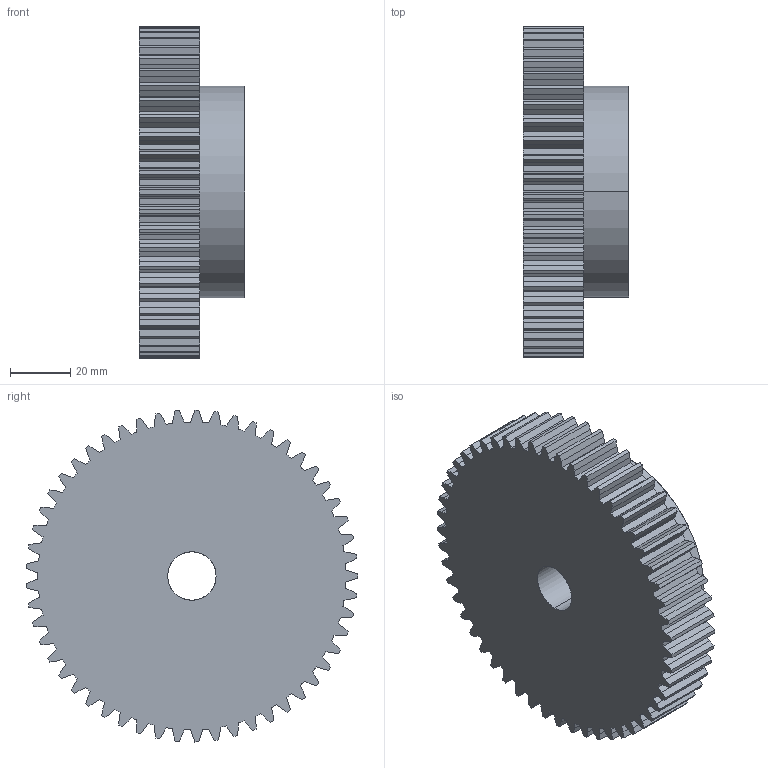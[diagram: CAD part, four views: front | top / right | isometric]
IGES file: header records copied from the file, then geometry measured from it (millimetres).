
Start section: SolidWorks IGES file using analytic representation for surfaces
Global section: file name: C:\Users\Honza\Desktop\Matis (Hotove)\Èelní ozubená kola\PM\MODUL 2\PM 28053.IGS; native system: SolidWorks 2010; preprocessor: SolidWorks 2010; author: Honza; date: 130925.105123; units: millimetre
Bounding box: 35 x 109.94 x 109.98 mm (x, y, z)
Surface area: 34740.5 mm2 (no closed solid volume)
Topology: 0 solids, 0 shells, 325 faces, 2154 edges, 2154 vertices
Faces by surface type: bspline 215, revolution 110
